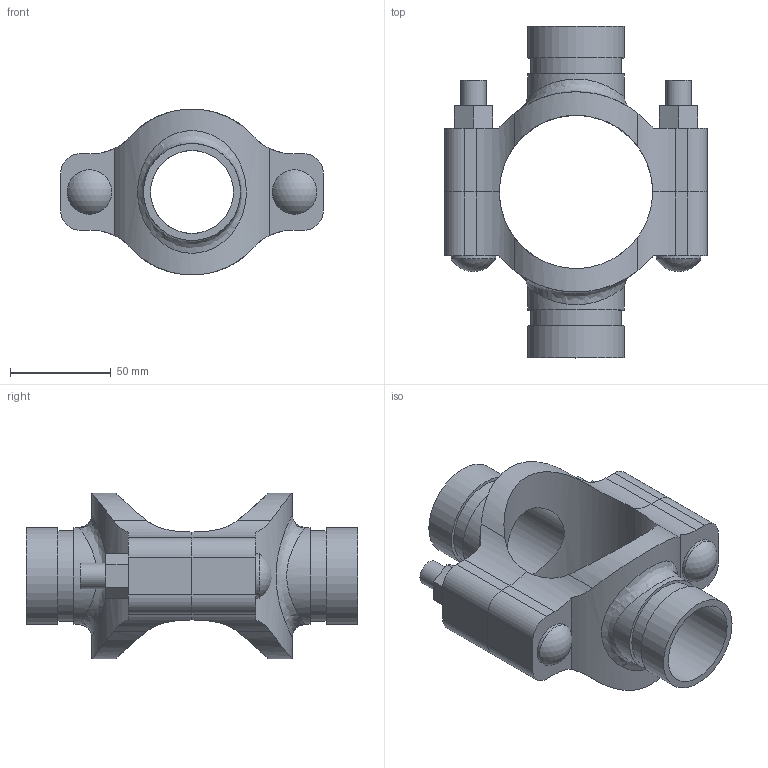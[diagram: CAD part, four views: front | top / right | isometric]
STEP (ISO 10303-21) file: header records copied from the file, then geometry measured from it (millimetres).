
FILE_DESCRIPTION(/* description */ ('VIC MECH-T BRANCH OUTLET CROSS STYLE 920N (GRVD)','CAx-IF Rec.Pracs.---Representation and Presentation of Product Manufacturing Information (PMI)---4.0---2014-10-13'),/* implementation_level */ '2;1');
FILE_NAME(/* name */ 'C:\Users\Vjadhav\AppData\Roaming\Autodesk\ApplicationPlugins\Back Up\Victaulic_IPS_Mechanical-Cross Outlet_Style 920N (OGS)\Victaulic_IPS_Mechanical-Cross Outlet_02.5 (76.1)x01.5x01.5 (65x40x40).stp',/* time_stamp */ '2020-08-06T19:43:20+05:00',/* author */ ('Vjadhav'),/* organization */ ('Victaulic'),/* preprocessor_version */ 'ST-DEVELOPER v17.2',/* originating_system */ 'Autodesk Inventor 2019',/* authorisation */ '');
FILE_SCHEMA (('AP242_MANAGED_MODEL_BASED_3D_ENGINEERING_MIM_LF { 1 0 10303 442 1 1 4 }'));
Length unit declared in the file: inch
Products named in the file (3): 920NG-02.5 (76.1)x01.5x01.5; 920NG-02.5 (76.1)x01.5; 920NG-02.5 (76.1)x01.5_1
Assembly tree (2 placements, depth 2):
  920NG-02.5 (76.1)x01.5x01.5
    920NG-02.5 (76.1)x01.5
    920NG-02.5 (76.1)x01.5_1
Bounding box: 130.56 x 165.1 x 82.55 mm (x, y, z)
Volume: 275929.7 mm3; surface area: 83880.7 mm2
Topology: 2 solids, 2 shells, 104 faces, 262 edges, 178 vertices
Faces by surface type: plane 54, cylinder 46, sphere 2, bspline 2
Full cylindrical faces by diameter (mm): 12.7 x4, 22.225 x2, 41.275 x2, 45.085 x2, 48.26 x4
Entity records: 4166 total; most frequent: CARTESIAN_POINT 1393, DIRECTION 532, ORIENTED_EDGE 524, EDGE_CURVE 262, AXIS2_PLACEMENT_3D 193, VERTEX_POINT 178, LINE 146, VECTOR 146
